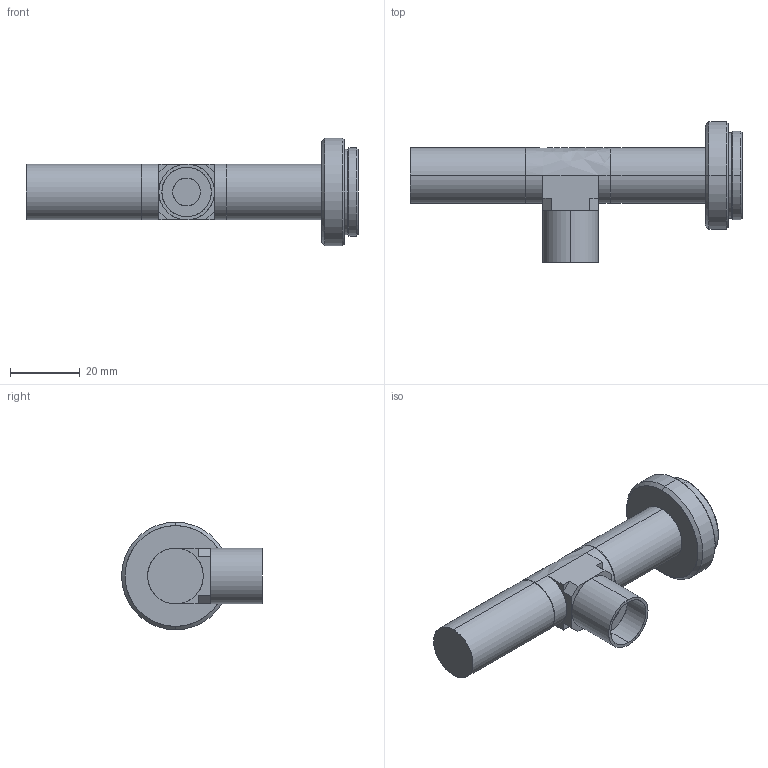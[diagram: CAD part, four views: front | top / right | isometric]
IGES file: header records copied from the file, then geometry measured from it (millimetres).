
Start section: SolidWorks IGES file using analytic representation for surfaces
Bounding box: 95.5 x 40.5 x 31 mm (x, y, z)
Surface area: 8227.4 mm2 (no closed solid volume)
Topology: 0 solids, 0 shells, 59 faces, 764 edges, 764 vertices
Faces by surface type: revolution 35, bspline 24
